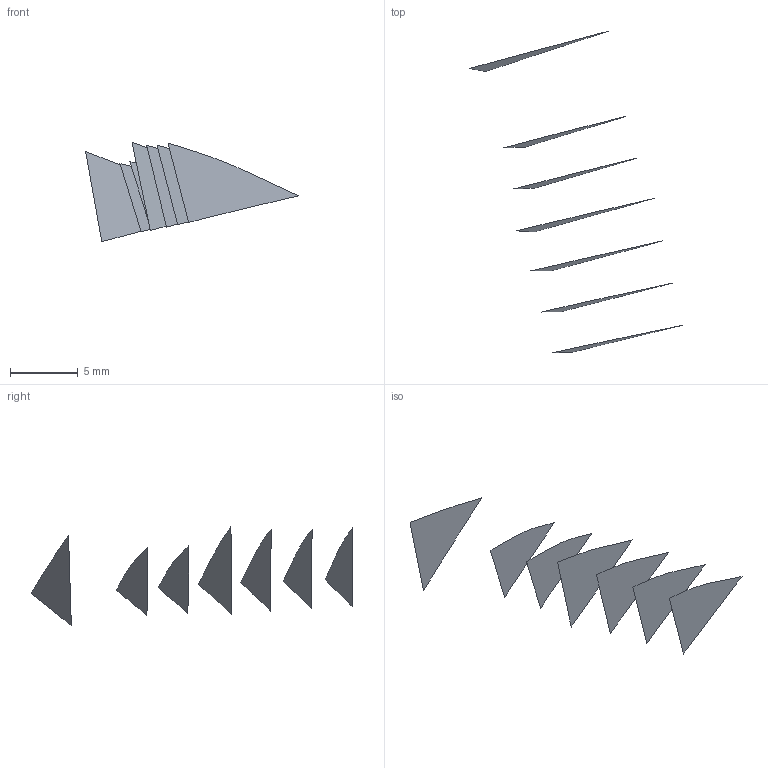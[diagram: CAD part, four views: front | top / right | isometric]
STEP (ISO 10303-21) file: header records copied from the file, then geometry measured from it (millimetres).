
FILE_DESCRIPTION(('FreeCAD Model'),'2;1');
FILE_NAME('Open CASCADE Shape Model','2022-05-22T07:50:21',('FreeCAD'),( 'FreeCAD'),'Open CASCADE STEP processor 7.5','FreeCAD','Unknown');
FILE_SCHEMA(('AUTOMOTIVE_DESIGN { 1 0 10303 214 1 1 1 1 }'));
Length unit declared in the file: millimetre
Products named in the file (8): Open CASCADE STEP translator 7.5 16; Open CASCADE STEP translator 7.5 16.1; Open CASCADE STEP translator 7.5 16.2; Open CASCADE STEP translator 7.5 16.3; Open CASCADE STEP translator 7.5 16.4; Open CASCADE STEP translator 7.5 16.5; Open CASCADE STEP translator 7.5 16.6; Open CASCADE STEP translator 7.5 16.7
Assembly tree (7 placements, depth 2):
  Open CASCADE STEP translator 7.5 16
    Open CASCADE STEP translator 7.5 16.1
    Open CASCADE STEP translator 7.5 16.2
    Open CASCADE STEP translator 7.5 16.3
    Open CASCADE STEP translator 7.5 16.4
    Open CASCADE STEP translator 7.5 16.5
    Open CASCADE STEP translator 7.5 16.6
    Open CASCADE STEP translator 7.5 16.7
Bounding box: 15.76 x 23.83 x 7.36 mm (x, y, z)
Surface area: 197.5 mm2 (no closed solid volume)
Topology: 0 solids, 7 shells, 7 faces, 86 edges, 86 vertices
Faces by surface type: bspline 7
Entity records: 1330 total; most frequent: CARTESIAN_POINT 466, B_SPLINE_CURVE_WITH_KNOTS 172, ORIENTED_EDGE 86, EDGE_CURVE 86, VERTEX_POINT 86, SURFACE_CURVE 86, PCURVE 86, DEFINITIONAL_REPRESENTATION 86
